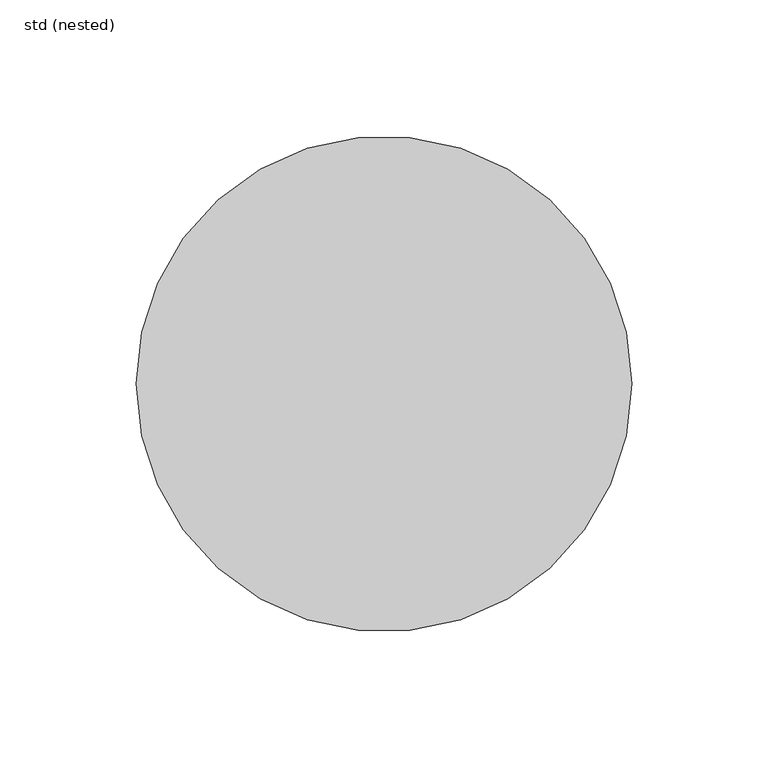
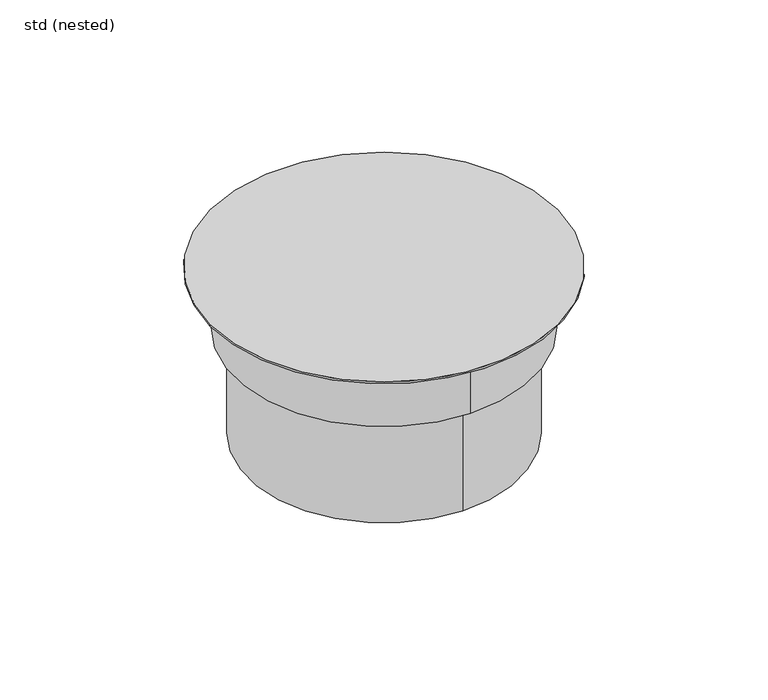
"""IFC4 building model written with IfcOpenShell, lengths in millimetres: sanitary terminal geometry, ZZZ_do not use_PF_ST_UN_raising piece telescopic hygienic gully_ACO : std (nested)."""

import ifcopenshell
import ifcopenshell.guid

model = None  # the IFC model being written
_history = None  # IfcOwnerHistory: only IFC2X3 demands one
_inside = {}  # id of a spatial element -> (the spatial element, [elements in it])
_under = {}  # id of a project, library or spatial element -> (it, [spatial elements below it])
_declared = {}  # id of a project -> (the project, [libraries it declares])
_typed = {}  # id of a type object -> (the type object, [elements of that type])
_made_of = {}  # id of a material, layer set ... -> (it, [elements and type objects made of it])


def new_model(schema):
    """Start an empty IFC model of exactly this schema.

    Asked for "IFC4X3", IfcOpenShell would pick the latest addendum, in which some entities
    have other attributes; the version numbers below select the first issue.
    IFC2X3 requires an IfcOwnerHistory on every rooted entity: one is made here for all.
    """
    global model, _history
    if schema == "IFC4X3":
        model = ifcopenshell.file(schema_version=(4, 3, 0, 0))
    else:
        model = ifcopenshell.file(schema=schema)
    _inside.clear()
    _under.clear()
    _declared.clear()
    _typed.clear()
    _made_of.clear()
    _history = None
    if model.schema == "IFC2X3":
        org = make("IfcOrganization", Name="unknown")
        user = make(
            "IfcPersonAndOrganization",
            ThePerson=make("IfcPerson", FamilyName="unknown"),
            TheOrganization=org,
        )
        app = make(
            "IfcApplication",
            ApplicationDeveloper=org,
            Version="unknown",
            ApplicationFullName="unknown",
            ApplicationIdentifier="unknown",
        )
        _history = make(
            "IfcOwnerHistory",
            OwningUser=user,
            OwningApplication=app,
            ChangeAction="ADDED",
            CreationDate=0,
        )
    return model


def make(cls, **values):
    """One entity of the class cls with the attributes given. An attribute that is None is left unset."""
    return model.create_entity(
        cls, **{name: value for name, value in values.items() if value is not None}
    )


def rooted(cls, **values):
    """An entity with a GlobalId (a new one), such as an element, a storey or a relation."""
    return make(cls, GlobalId=ifcopenshell.guid.new(), OwnerHistory=_history, **values)


def si_unit(unit_type, name, prefix=None):
    """IfcSIUnit, for example si_unit("LENGTHUNIT", "METRE", prefix="MILLI")."""
    return make("IfcSIUnit", UnitType=unit_type, Prefix=prefix, Name=name)


def assignment(units):
    """IfcUnitAssignment: the units of a project."""
    return None if units is None else make("IfcUnitAssignment", Units=units)


def point(xyz):
    """IfcCartesianPoint."""
    return None if xyz is None else make("IfcCartesianPoint", Coordinates=xyz)


def direction(xyz):
    """IfcDirection."""
    return None if xyz is None else make("IfcDirection", DirectionRatios=xyz)


def frame(location, z_axis=None, x_axis=None):
    """IfcAxis2Placement3D, a coordinate frame: its origin and axes. An axis left out is left unset."""
    return make(
        "IfcAxis2Placement3D",
        Location=point(location),
        Axis=direction(z_axis),
        RefDirection=direction(x_axis),
    )


def frame_2d(location, x_axis=None):
    """IfcAxis2Placement2D, a coordinate frame in the plane: its origin and x axis."""
    return make(
        "IfcAxis2Placement2D", Location=point(location), RefDirection=direction(x_axis)
    )


def origin():
    """The frame at (0, 0, 0) with its axes left unset."""
    return frame((0.0, 0.0, 0.0))


def origin_with_axes():
    """The frame at (0, 0, 0) with the z axis (0, 0, 1) and the x axis (1, 0, 0) written out."""
    return frame((0.0, 0.0, 0.0), z_axis=(0.0, 0.0, 1.0), x_axis=(1.0, 0.0, 0.0))


def origin_2d():
    """The frame at (0, 0) in the plane with its x axis left unset."""
    return frame_2d((0.0, 0.0))


def place(relative_to, where):
    """IfcLocalPlacement: puts the frame where relative to a parent placement (None: the world)."""
    return make(
        "IfcLocalPlacement", PlacementRelTo=relative_to, RelativePlacement=where
    )


def context(
    kind, dimensions, precision=None, world=None, true_north=None, identifier=None
):
    """IfcGeometricRepresentationContext, for example the 3D "Model" context."""
    return make(
        "IfcGeometricRepresentationContext",
        ContextIdentifier=identifier,
        ContextType=kind,
        CoordinateSpaceDimension=dimensions,
        Precision=precision,
        WorldCoordinateSystem=world,
        TrueNorth=true_north,
    )


def project(units=None, contexts=None):
    """IfcProject with its units and contexts."""
    return rooted(
        "IfcProject",
        Name="project",
        RepresentationContexts=contexts,
        UnitsInContext=assignment(units),
    )


def spatial(cls, under=None, at=None, **own):
    """A site, building, storey or space (cls), placed at a placement, below another one or the project."""
    s = rooted(cls, ObjectPlacement=at, **own)
    if under is not None:
        _under.setdefault(under.id(), (under, []))[1].append(s)
    return s


def circle_curve(where, radius):
    """IfcCircle in the frame where."""
    return make("IfcCircle", Position=where, Radius=radius)


def trimmed(basis, trim1, trim2, sense, master):
    """IfcTrimmedCurve: the piece of a basis curve between two trims."""
    return make(
        "IfcTrimmedCurve",
        BasisCurve=basis,
        Trim1=trim1,
        Trim2=trim2,
        SenseAgreement=sense,
        MasterRepresentation=master,
    )


def segment(curve, same_sense, transition):
    """IfcCompositeCurveSegment."""
    return make(
        "IfcCompositeCurveSegment",
        Transition=transition,
        SameSense=same_sense,
        ParentCurve=curve,
    )


def composite_curve(segments, self_intersect=None):
    """IfcCompositeCurve: segments joined end to end."""
    return make("IfcCompositeCurve", Segments=segments, SelfIntersect=self_intersect)


def outline(outer, holes=None, kind="AREA"):
    """IfcArbitraryClosedProfileDef: a profile drawn as a closed curve; with holes, ...WithVoids."""
    if holes is None:
        return make("IfcArbitraryClosedProfileDef", ProfileType=kind, OuterCurve=outer)
    return make(
        "IfcArbitraryProfileDefWithVoids",
        ProfileType=kind,
        OuterCurve=outer,
        InnerCurves=holes,
    )


def extrude(swept, where, along, depth):
    """IfcExtrudedAreaSolid: the profile swept, set in the frame where, extruded along a direction by depth."""
    return make(
        "IfcExtrudedAreaSolid",
        SweptArea=swept,
        Position=where,
        ExtrudedDirection=direction(along),
        Depth=depth,
    )


def shape(context_of_items, identifier, shape_type, items):
    """IfcShapeRepresentation: the items that make up one representation, for example the "Body"."""
    return make(
        "IfcShapeRepresentation",
        ContextOfItems=context_of_items,
        RepresentationIdentifier=identifier,
        RepresentationType=shape_type,
        Items=items,
    )


def source(mapping_origin, context_of_items, identifier, shape_type, items):
    """IfcRepresentationMap: a shape defined once, which mapped items show again and again."""
    return make(
        "IfcRepresentationMap",
        MappingOrigin=mapping_origin,
        MappedRepresentation=shape(context_of_items, identifier, shape_type, items),
    )


def transform(
    local_origin,
    x_axis=None,
    y_axis=None,
    z_axis=None,
    scale=None,
    scale2=None,
    scale3=None,
    uniform=True,
):
    """IfcCartesianTransformationOperator3D, or its non-uniform kind. x_axis, y_axis, z_axis: its Axis1, 2, 3."""
    if uniform:
        return make(
            "IfcCartesianTransformationOperator3D",
            Axis1=direction(x_axis),
            Axis2=direction(y_axis),
            LocalOrigin=point(local_origin),
            Scale=scale,
            Axis3=direction(z_axis),
        )
    return make(
        "IfcCartesianTransformationOperator3DnonUniform",
        Axis1=direction(x_axis),
        Axis2=direction(y_axis),
        LocalOrigin=point(local_origin),
        Scale=scale,
        Axis3=direction(z_axis),
        Scale2=scale2,
        Scale3=scale3,
    )


def mapped(mapping_source, mapping_target):
    """IfcMappedItem: shows the shape of a source again, moved by a transform."""
    return make(
        "IfcMappedItem", MappingSource=mapping_source, MappingTarget=mapping_target
    )


def made_of(thing, what):
    """Note that an element or type object is made of a material, layer set ...; save() writes the relation."""
    if what is not None:
        _made_of.setdefault(what.id(), (what, []))[1].append(thing)
    return thing


def element(
    cls,
    number,
    at=None,
    inside=None,
    cuts=None,
    type_object=None,
    material=None,
    context=None,
    identifier="Body",
    shape_type=None,
    held_by="IfcProductDefinitionShape",
    body=None,
    shapes=None,
    **own,
):
    """One element of the class cls, such as IfcWall. Its Tag is "e" and its number.

    at: its placement. inside: the storey or other place that contains it. cuts: it is an
    opening in that element (IfcRelVoidsElement). A single representation is given by context,
    identifier, shape_type and body (its items); several are given by shapes. held_by: the class
    of the entity that holds the representations. save() writes the other relations.
    """
    e = rooted(cls, Tag="e%d" % number, ObjectPlacement=at, **own)
    if body is not None:
        shapes = [shape(context, identifier, shape_type, body)]
    if shapes is not None:
        e.Representation = make(held_by, Representations=shapes)
    if inside is not None:
        _inside.setdefault(inside.id(), (inside, []))[1].append(e)
    if cuts is not None:
        rooted(
            "IfcRelVoidsElement", RelatingBuildingElement=cuts, RelatedOpeningElement=e
        )
    if type_object is not None:
        _typed.setdefault(type_object.id(), (type_object, []))[1].append(e)
    return made_of(e, material)


def aggregate(whole, parts):
    """IfcRelAggregates: a whole, such as a stair, and the parts it consists of."""
    return rooted("IfcRelAggregates", RelatingObject=whole, RelatedObjects=parts)


def save(model, path):
    """Write the relations noted so far, then the file.

    IfcRelAggregates (storeys below a building ...), IfcRelContainedInSpatialStructure (elements
    in a storey), IfcRelDefinesByType, IfcRelAssociatesMaterial and IfcRelDeclares: one each for
    every whole, place, type object, material and project.
    """
    for whole, parts in _under.values():
        aggregate(whole, parts)
    for where, things in _inside.values():
        rooted(
            "IfcRelContainedInSpatialStructure",
            RelatedElements=things,
            RelatingStructure=where,
        )
    for kind, things in _typed.values():
        rooted("IfcRelDefinesByType", RelatedObjects=things, RelatingType=kind)
    for what, things in _made_of.values():
        rooted("IfcRelAssociatesMaterial", RelatedObjects=things, RelatingMaterial=what)
    for by, libraries in _declared.values():
        rooted("IfcRelDeclares", RelatingContext=by, RelatedDefinitions=libraries)
    model.write(path)


def plane_surface(at):
    """IfcPlane: the flat surface through the origin of the frame at, square to its z axis."""
    return make("IfcPlane", Position=at)


def cylinder_surface(at, radius):
    """IfcCylindricalSurface: all points at the distance radius from the z axis of the frame at."""
    return make("IfcCylindricalSurface", Position=at, Radius=radius)


def advanced_brep(points, edges, surfaces, faces):
    """IfcAdvancedBrep: a solid bounded by faces that lie on surfaces and meet in shared edges.

    An edge is (start, end): straight between two places in points (the first is 0);
    or (start, end, curve); or (start, end, curve, False) where it runs against its curve.
    A face is (place in surfaces, loops), or (place, loops, False) where it looks against
    its surface's normal. A loop lists edges by number (the first is 1), with a minus sign
    where the edge is run from its end to its start. The first loop is the outer one.
    """
    corners = [point(p) for p in points]
    vertices = [make("IfcVertexPoint", VertexGeometry=c) for c in corners]
    made = []
    for start, end, *more in edges:
        made.append(
            make(
                "IfcEdgeCurve",
                EdgeStart=vertices[start],
                EdgeEnd=vertices[end],
                EdgeGeometry=more[0] if more else make("IfcPolyline", Points=[corners[start], corners[end]]),
                SameSense=more[1] if len(more) > 1 else True,
            )
        )
    hull = []
    for where, loops, *sense in faces:
        bounds = []
        for j, loop in enumerate(loops):
            ring = [make("IfcOrientedEdge", EdgeElement=made[abs(k) - 1], Orientation=k > 0) for k in loop]
            bounds.append(
                make(
                    "IfcFaceOuterBound" if j == 0 else "IfcFaceBound",
                    Bound=make("IfcEdgeLoop", EdgeList=ring),
                    Orientation=True,
                )
            )
        hull.append(make("IfcAdvancedFace", Bounds=bounds, FaceSurface=surfaces[where], SameSense=sense[0] if sense else True))
    return make("IfcAdvancedBrep", Outer=make("IfcClosedShell", CfsFaces=hull))


def std_nested_27eed14b(model_context):
    return source(origin(), model_context, "Body", "SolidModel", [
        extrude(outline(composite_curve([segment(trimmed(circle_curve(origin_2d(), 71.3), [point((0.0, -71.3))], [point((0.0, 71.3))], False, "CARTESIAN"), True, "CONTINUOUS"), segment(trimmed(circle_curve(origin_2d(), 71.3), [point((0.0, 71.3))], [point((0.0, -71.3))], False, "CARTESIAN"), True, "CONTINUOUS")], self_intersect=False)), frame((0.0, 0.0, -92.0), z_axis=(0.0, 0.0, 1.0), x_axis=(1.0, 0.0, 0.0)), (0.0, 0.0, 1.0), 58.5),
        advanced_brep(
        [(0.0, -78.5, -33.5), (0.0, 78.5, -33.5), (-91.0, 0.0, 0.0), (91.0, 0.0, 0.0), (0.0, -78.5, -1.0), (0.0, 78.5, -1.0), (-91.0, 0.0, -1.0), (91.0, 0.0, -1.0)],
        [
            (0, 1, circle_curve(frame((0.0, 0.0, -33.5), z_axis=(0.0, 0.0, -1.0), x_axis=(0.0, 1.0, 0.0)), 78.5)),
            (1, 0, circle_curve(frame((0.0, 0.0, -33.5), z_axis=(0.0, 0.0, -1.0), x_axis=(0.0, 1.0, 0.0)), 78.5)),
            (2, 3, circle_curve(origin_with_axes(), 91.0)),
            (3, 2, circle_curve(origin_with_axes(), 91.0)),
            (0, 4),
            (4, 5, circle_curve(frame((0.0, 0.0, -1.0), z_axis=(0.0, 0.0, -1.0), x_axis=(0.0, 1.0, 0.0)), 78.5)),
            (5, 1),
            (5, 4, circle_curve(frame((0.0, 0.0, -1.0), z_axis=(0.0, 0.0, -1.0), x_axis=(0.0, 1.0, 0.0)), 78.5)),
            (6, 7, circle_curve(frame((0.0, 0.0, -1.0), z_axis=(0.0, 0.0, -1.0), x_axis=(1.0, 0.0, 0.0)), 91.0)),
            (7, 6, circle_curve(frame((0.0, 0.0, -1.0), z_axis=(0.0, 0.0, -1.0), x_axis=(1.0, 0.0, 0.0)), 91.0)),
            (7, 3),
            (2, 6),
        ],
        [
            plane_surface(frame((0.0, 78.5, -33.5), z_axis=(0.0, 0.0, -1.0), x_axis=(1.0, 0.0, 0.0))),
            plane_surface(frame((0.0, 78.5, 0.0), z_axis=(0.0, 0.0, 1.0), x_axis=(-1.0, 0.0, 0.0))),
            cylinder_surface(frame((0.0, 0.0, 0.0), z_axis=(0.0, 0.0, -1.0), x_axis=(0.0, 1.0, 0.0)), 78.5),
            plane_surface(frame((91.0, 0.0, -1.0), z_axis=(0.0, 0.0, -1.0), x_axis=(0.0, -1.0, 0.0))),
            cylinder_surface(frame((0.0, 0.0, -1.0), z_axis=(0.0, 0.0, 1.0), x_axis=(1.0, 0.0, 0.0)), 91.0),
        ],
        [
            (0, [[1, 2]]),
            (1, [[3, 4]]),
            (2, [[-1, 5, 6, 7]]),
            (2, [[-2, -7, 8, -5]]),
            (3, [[9, 10], [-6, -8]]),
            (4, [[-10, 11, -3, 12]]),
            (4, [[-9, -12, -4, -11]]),
        ],
    ),
    ])


if __name__ == "__main__":
    model = new_model("IFC4")
    model_context = context("Model", 3, world=origin())
    ifc_project = project(units=[si_unit("LENGTHUNIT", "METRE", prefix="MILLI")], contexts=[model_context])
    site = spatial("IfcSite", under=ifc_project)
    building = spatial("IfcBuilding", under=site)
    placement = place(None, origin())
    std_nested_shape = std_nested_27eed14b(model_context)
    element("IfcSanitaryTerminal", 1, ObjectType="ZZZ_do not use_PF_ST_UN_raising piece telescopic hygienic gully_ACO : std (nested)", at=placement, inside=building, context=model_context, shape_type="MappedRepresentation", body=[
        mapped(std_nested_shape, transform((0.0, 0.0, 0.0), x_axis=(1.0, 0.0, 0.0), y_axis=(0.0, 1.0, 0.0), z_axis=(0.0, 0.0, 1.0))),
    ])
    save(model, "model.ifc")
